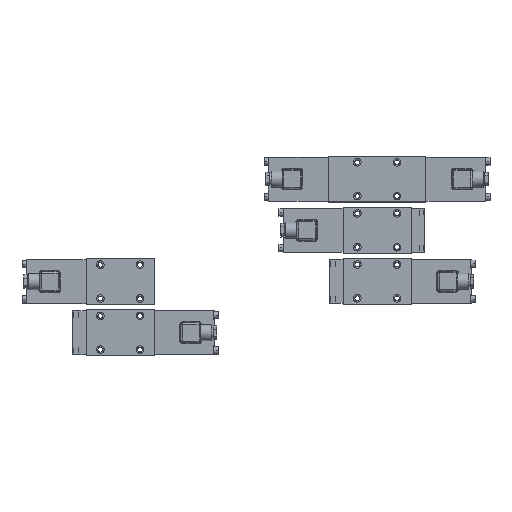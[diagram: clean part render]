
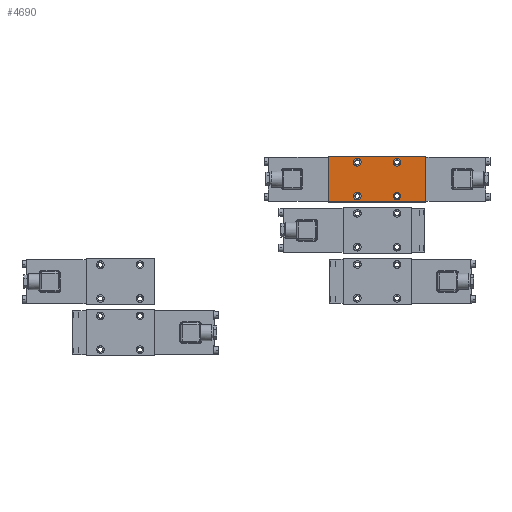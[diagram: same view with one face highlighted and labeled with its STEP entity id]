
A CAD part, top view. The second image highlights one B-rep face of the part: STEP entity #4690.
In plain terms, the highlighted planar face has unit normal (0, 0, 1).
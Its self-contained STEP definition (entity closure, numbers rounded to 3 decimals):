
#4690=ADVANCED_FACE('', (#4700,#4710,#4720,#4730,#4740), #4750, .T.);
#58780=AXIS2_PLACEMENT_3D('Ax2Pl3d', #58790, #58800, #58810);
#58900=AXIS2_PLACEMENT_3D('Ax2Pl3d', #58910, #58920, #58930);
#59020=AXIS2_PLACEMENT_3D('Ax2Pl3d', #59030, #59040, #59050);
#59140=AXIS2_PLACEMENT_3D('Ax2Pl3d', #59150, #59160, #59170);
#61940=AXIS2_PLACEMENT_3D('Ax2Pl3d', #61950, #61960, #61970);
#179680=CARTESIAN_POINT('', (0.,0.,62.));
#179690=CARTESIAN_POINT('', (0.,62.,62.));
#179700=CARTESIAN_POINT('', (0.,0.,62.));
#58790=CARTESIAN_POINT('HicPkt', (39.5,8.,62.));
#179800=CARTESIAN_POINT('', (39.5,13.25,62.));
#58910=CARTESIAN_POINT('HicPkt', (39.5,54.,62.));
#179820=CARTESIAN_POINT('', (39.5,59.25,62.));
#59030=CARTESIAN_POINT('HicPkt', (93.5,54.,62.));
#179840=CARTESIAN_POINT('', (93.5,59.25,62.));
#59150=CARTESIAN_POINT('HicPkt', (93.5,8.,62.));
#179860=CARTESIAN_POINT('', (93.5,13.25,62.));
#179880=CARTESIAN_POINT('', (133.,0.,62.));
#179890=CARTESIAN_POINT('', (133.,0.,62.));
#179930=CARTESIAN_POINT('', (0.,62.,62.));
#179940=CARTESIAN_POINT('', (133.,62.,62.));
#180080=CARTESIAN_POINT('', (133.,62.,62.));
#61950=CARTESIAN_POINT('HicPkt', (0.,62.,62.));
#220780=CIRCLE('Circle', #58780, 5.25);
#220800=CIRCLE('Circle', #58900, 5.25);
#220820=CIRCLE('Circle', #59020, 5.25);
#220840=CIRCLE('Circle', #59140, 5.25);
#340420=DIRECTION('', (0.,-1.,0.));
#58800=DIRECTION('Axis', (0.,0.,-1.));
#58810=DIRECTION('RefDirection', (-1.,0.,0.));
#58920=DIRECTION('Axis', (0.,0.,-1.));
#58930=DIRECTION('RefDirection', (-1.,0.,0.));
#59040=DIRECTION('Axis', (0.,0.,-1.));
#59050=DIRECTION('RefDirection', (-1.,0.,0.));
#59160=DIRECTION('Axis', (0.,0.,-1.));
#59170=DIRECTION('RefDirection', (-1.,0.,0.));
#340460=DIRECTION('', (1.,0.,0.));
#340490=DIRECTION('', (-1.,0.,0.));
#340530=DIRECTION('', (0.,1.,0.));
#61960=DIRECTION('Axis', (0.,0.,1.));
#61970=DIRECTION('RefDirection', (1.,0.,0.));
#359800=EDGE_CURVE('', #359810, #359820, #359830, .T.);
#360000=EDGE_CURVE('', #360010, #360010, #220780, .T.);
#360040=EDGE_CURVE('', #360050, #360050, #220800, .T.);
#360080=EDGE_CURVE('', #360090, #360090, #220820, .T.);
#360120=EDGE_CURVE('', #360130, #360130, #220840, .T.);
#360160=EDGE_CURVE('', #359820, #360170, #360180, .T.);
#360240=EDGE_CURVE('', #360250, #359810, #360260, .T.);
#360520=EDGE_CURVE('', #360170, #360250, #360530, .T.);
#432570=EDGE_LOOP('Edge_loop', (#432580,#432590,#432600,#432610));
#432620=EDGE_LOOP('Edge_loop', (#432630));
#432640=EDGE_LOOP('Edge_loop', (#432650));
#432660=EDGE_LOOP('Edge_loop', (#432670));
#432680=EDGE_LOOP('Edge_loop', (#432690));
#4710=FACE_BOUND('', #432620, .T.);
#4720=FACE_BOUND('', #432640, .T.);
#4730=FACE_BOUND('', #432660, .T.);
#4740=FACE_BOUND('', #432680, .T.);
#4700=FACE_OUTER_BOUND('Face_outer_bound', #432570, .T.);
#359830=LINE('Line', #179680, #551030);
#360180=LINE('Line', #179880, #551070);
#360260=LINE('Line', #179930, #551100);
#360530=LINE('Line', #180080, #551140);
#432580=ORIENTED_EDGE('', *, *, #359800, .T.);
#432590=ORIENTED_EDGE('', *, *, #360160, .T.);
#432600=ORIENTED_EDGE('', *, *, #360520, .T.);
#432610=ORIENTED_EDGE('', *, *, #360240, .T.);
#432630=ORIENTED_EDGE('', *, *, #360040, .T.);
#432650=ORIENTED_EDGE('', *, *, #360080, .T.);
#432670=ORIENTED_EDGE('', *, *, #360000, .T.);
#432690=ORIENTED_EDGE('', *, *, #360120, .T.);
#4750=PLANE('Plane', #61940);
#551030=VECTOR('', #340420, 62.);
#551070=VECTOR('', #340460, 133.);
#551100=VECTOR('', #340490, 133.);
#551140=VECTOR('', #340530, 62.);
#359810=VERTEX_POINT('', #179690);
#359820=VERTEX_POINT('', #179700);
#360010=VERTEX_POINT('', #179800);
#360050=VERTEX_POINT('', #179820);
#360090=VERTEX_POINT('', #179840);
#360130=VERTEX_POINT('', #179860);
#360170=VERTEX_POINT('', #179890);
#360250=VERTEX_POINT('', #179940);
